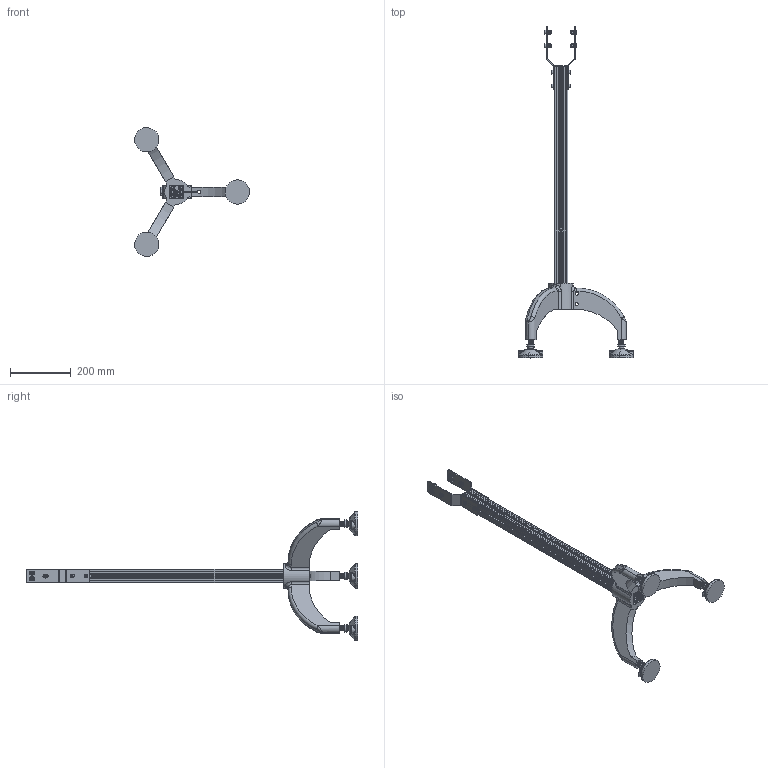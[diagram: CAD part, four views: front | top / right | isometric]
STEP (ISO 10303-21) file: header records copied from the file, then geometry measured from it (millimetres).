
FILE_DESCRIPTION (( 'STEP AP203' ), '1' );
FILE_NAME ('2000.325.KP.STEP', '2015-04-15T11:58:36', ( '' ), ( '' ), 'SwSTEP 2.0', 'SolidWorks 2012', '' );
FILE_SCHEMA (( 'CONFIG_CONTROL_DESIGN' ));
Length unit declared in the file: millimetre
Products named in the file (1): 2000.325.KP
Bounding box: 378.5 x 1093 x 424.67 mm (x, y, z)
Volume: 2333071.9 mm3; surface area: 780015.1 mm2
Topology: 30 solids, 30 shells, 1754 faces, 3966 edges, 2291 vertices
Faces by surface type: cylinder 572, cone 562, plane 395, torus 113, bspline 108, sphere 4
Entity records: 54501 total; most frequent: CARTESIAN_POINT 15352, DIRECTION 8538, ORIENTED_EDGE 7900, EDGE_CURVE 3950, AXIS2_PLACEMENT_3D 3299, VERTEX_POINT 2291, LINE 1940, VECTOR 1940
